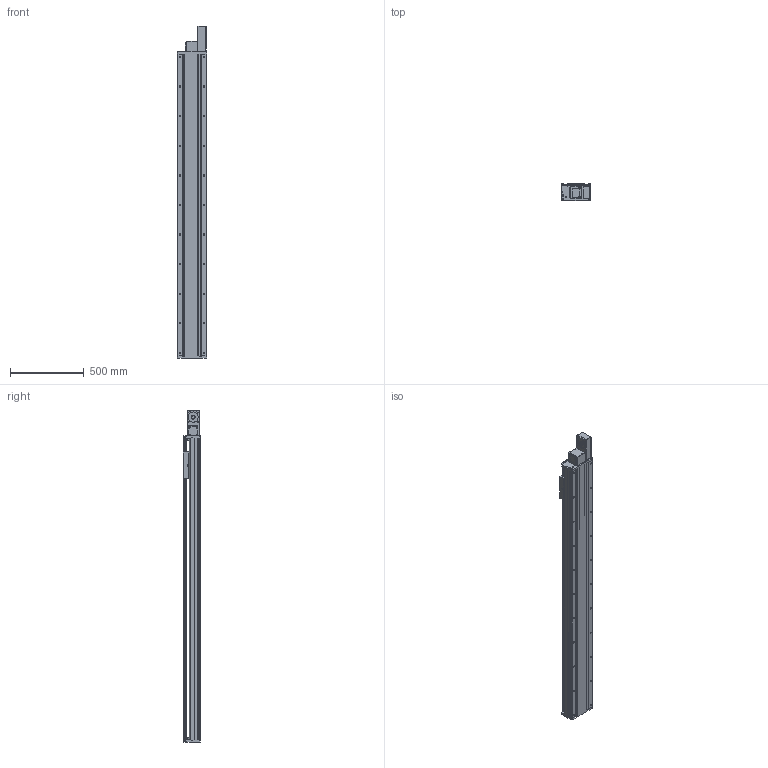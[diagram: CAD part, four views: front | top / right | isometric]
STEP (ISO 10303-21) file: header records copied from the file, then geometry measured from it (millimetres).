
FILE_DESCRIPTION(/* description */ (''),/* implementation_level */ '2;1');
FILE_NAME(/* name */ 'TKB200-FL-1800_asm1.stp',/* time_stamp */ '2016-05-18T10:24:27+08:00',/* author */ (''),/* organization */ (''),/* preprocessor_version */ 'ST-DEVELOPER v15',/* originating_system */ 'SIEMENS PLM Software NX 8.5',/* authorisation */ '');
FILE_SCHEMA (('AUTOMOTIVE_DESIGN { 1 0 10303 214 3 1 1 1 }'));
Length unit declared in the file: millimetre
Products named in the file (3): 200-2; 200-1; TKB200-FL-1800_asm1
Assembly tree (2 placements, depth 2):
  TKB200-FL-1800_asm1
    200-1
    200-2
Bounding box: 200 x 115 x 2245 mm (x, y, z)
Volume: 12800276.4 mm3; surface area: 4090604.6 mm2
Topology: 2 solids, 3 shells, 1077 faces, 3099 edges, 1997 vertices
Faces by surface type: cylinder 514, plane 477, cone 70, bspline 16
Full cylindrical faces by diameter (mm): 2.5 x2, 3.3 x16, 4.3 x4, 4.5 x8, 5 x2, 6.6 x34, 6.8 x8, 8 x6, 9 x30, 10 x4, 11 x22, 12 x16, 14 x22, 75 x1
Entity records: 37835 total; most frequent: CARTESIAN_POINT 10642, DIRECTION 5519, ORIENTED_EDGE 5494, EDGE_CURVE 2747, AXIS2_PLACEMENT_3D 2012, VERTEX_POINT 1892, EDGE_LOOP 1505, LINE 1495
